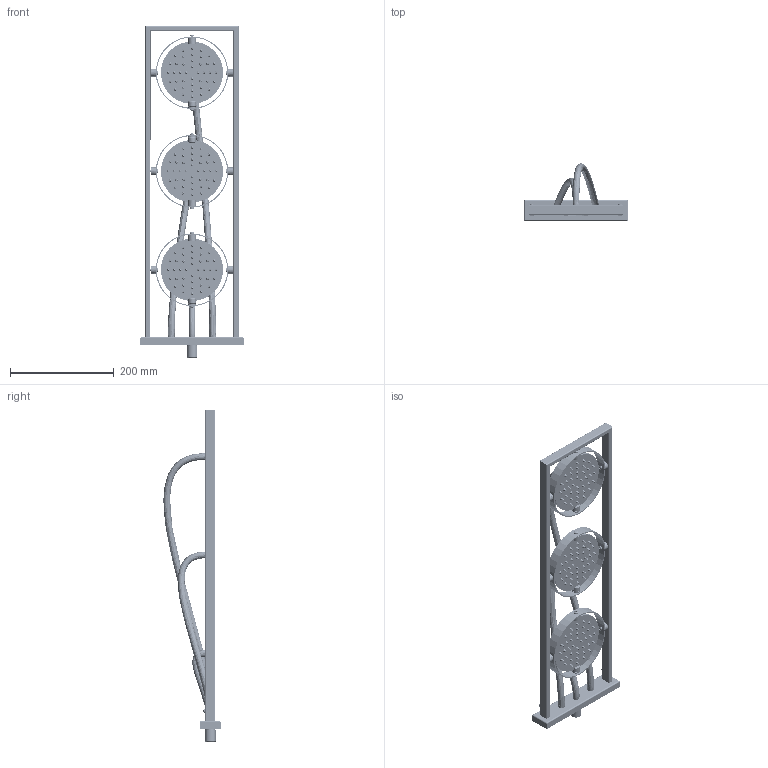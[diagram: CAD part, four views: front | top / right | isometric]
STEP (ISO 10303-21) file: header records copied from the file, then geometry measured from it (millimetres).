
FILE_DESCRIPTION((''),'2;1');
FILE_NAME('F2855_ASM','2017-01-23T',('ivanv'),(''),'CREO PARAMETRIC BY PTC INC, 2015290','CREO PARAMETRIC BY PTC INC, 2015290','');
FILE_SCHEMA(('CONFIG_CONTROL_DESIGN'));
Length unit declared in the file: millimetre
Products named in the file (29): STAFFA_PARETE_F2855; BRACCIA_STAFFA_PARETE_F2855; STAFFA_PARETE_F2855_ASM; INNESTO_G1-2; CORPO_KIT_ADDUZIONE; COPERCHIO_KIT_ADDUZIONE; INNESTO_KIT_ADDUZIONE; INNESTO_TIBO_SILICONE; KIT-ADDUZIONE_ASM; COVER_PARETE_F2855; BARRA_VERTICALE_F2860; BARRA_ORIZZINTALE_DX_F2855; BARRA_ORIZZINTALE_SX_F2855; TELEIO_SALDATO_F2855_ASM; ANELLO_ESTERNO_SOFFIONE; COPERCHIO_INFERIORE_SOFFIONE; PARTE_CENTRALE_SOFFIONE; TETTARELLA_SILICONE; COPERCHIO_SUPERIORE_SOFFIONE; SUPPORTO_LATERALE_SOFFIONE; ASSIEME_SOFFIONCINO_NU_ASM; GUARNIZIONE_FRIZIONE_NERA; VITE_FERMO_SOFFIONE; VITE_FERMO_TELAIO; SUPPORTO_LATERALE_TELAIO; ASSIEME_SOFFIONCINO_SNODATO_AF0_ASM; ASSIEME_SOFFIONCINO_SNODATO_AF1_ASM; ASSIEME_SOFFIONCINO_SNODATO_AF2_ASM; F2855_ASM
Assembly tree (104 placements, depth 4):
  F2855_ASM
    STAFFA_PARETE_F2855_ASM
      STAFFA_PARETE_F2855
      BRACCIA_STAFFA_PARETE_F2855  x2
    INNESTO_G1-2
    KIT-ADDUZIONE_ASM
      CORPO_KIT_ADDUZIONE
      COPERCHIO_KIT_ADDUZIONE
      INNESTO_KIT_ADDUZIONE
      INNESTO_TIBO_SILICONE  x3
    COVER_PARETE_F2855
    TELEIO_SALDATO_F2855_ASM
      BARRA_VERTICALE_F2860
      BARRA_ORIZZINTALE_DX_F2855
      BARRA_ORIZZINTALE_SX_F2855
    ASSIEME_SOFFIONCINO_SNODATO_AF0_ASM
      ANELLO_ESTERNO_SOFFIONE
      ASSIEME_SOFFIONCINO_NU_ASM
        COPERCHIO_INFERIORE_SOFFIONE
        PARTE_CENTRALE_SOFFIONE
        TETTARELLA_SILICONE  x40
        COPERCHIO_SUPERIORE_SOFFIONE
        INNESTO_TIBO_SILICONE
        SUPPORTO_LATERALE_SOFFIONE  x2
      GUARNIZIONE_FRIZIONE_NERA  x4
      VITE_FERMO_SOFFIONE  x2
      VITE_FERMO_TELAIO  x2
      SUPPORTO_LATERALE_TELAIO  x2
    ASSIEME_SOFFIONCINO_SNODATO_AF1_ASM
      ANELLO_ESTERNO_SOFFIONE
      ASSIEME_SOFFIONCINO_NU_ASM
        COPERCHIO_INFERIORE_SOFFIONE
        PARTE_CENTRALE_SOFFIONE
        TETTARELLA_SILICONE  x40
        COPERCHIO_SUPERIORE_SOFFIONE
        INNESTO_TIBO_SILICONE
        SUPPORTO_LATERALE_SOFFIONE  x2
      GUARNIZIONE_FRIZIONE_NERA  x4
      VITE_FERMO_SOFFIONE  x2
      VITE_FERMO_TELAIO  x2
      SUPPORTO_LATERALE_TELAIO  x2
    ASSIEME_SOFFIONCINO_SNODATO_AF2_ASM
      ANELLO_ESTERNO_SOFFIONE
      ASSIEME_SOFFIONCINO_NU_ASM
        COPERCHIO_INFERIORE_SOFFIONE
        PARTE_CENTRALE_SOFFIONE
        TETTARELLA_SILICONE  x40
        COPERCHIO_SUPERIORE_SOFFIONE
        INNESTO_TIBO_SILICONE
        SUPPORTO_LATERALE_SOFFIONE  x2
      GUARNIZIONE_FRIZIONE_NERA  x4
      VITE_FERMO_SOFFIONE  x2
      VITE_FERMO_TELAIO  x2
      SUPPORTO_LATERALE_TELAIO  x2
    VITE_FERMO_TELAIO  x2
Bounding box: 200 x 110.11 x 640 mm (x, y, z)
Volume: 399321.1 mm3; surface area: 548205 mm2
Topology: 187 solids, 210 shells, 4185 faces, 9560 edges, 6173 vertices
Faces by surface type: cylinder 1910, plane 1187, torus 960, cone 94, sphere 28, bspline 6
Entity records: 29724 total; most frequent: CARTESIAN_POINT 7770, DIRECTION 4632, ORIENTED_EDGE 4209, EDGE_CURVE 2192, AXIS2_PLACEMENT_3D 1692, VERTEX_POINT 1508, VECTOR 1248, LINE 1248
